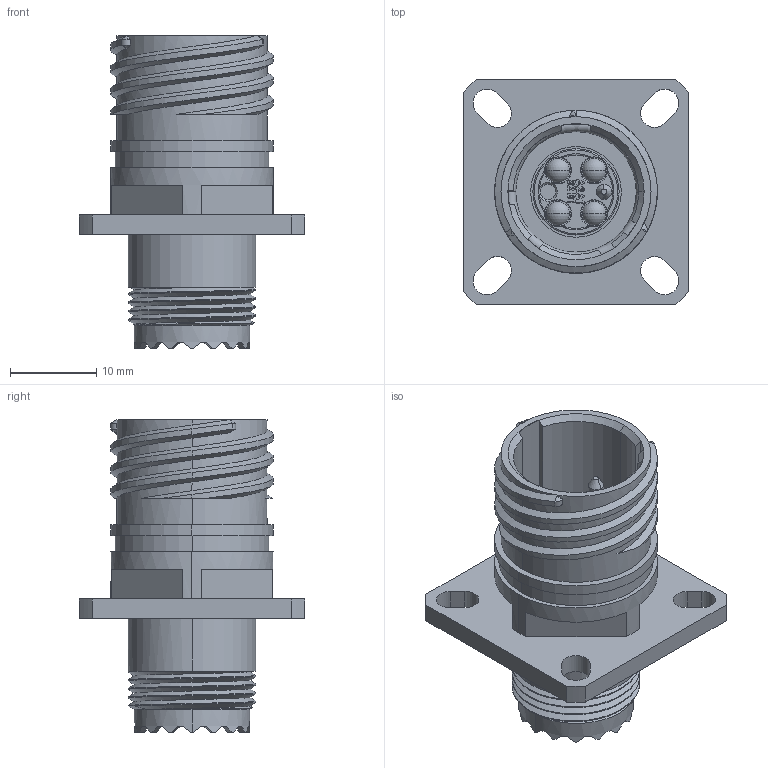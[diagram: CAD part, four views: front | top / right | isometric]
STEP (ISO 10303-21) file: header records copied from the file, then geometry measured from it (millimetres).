
FILE_DESCRIPTION (( 'STEP AP214' ), '1' );
FILE_NAME ('Q38EB-RFX-11XX-X-RA.STEP', '2025-12-12T16:53:03', ( '' ), ( '' ), 'SwSTEP 2.0', 'SolidWorks 2024', '' );
FILE_SCHEMA (( 'AUTOMOTIVE_DESIGN' ));
Length unit declared in the file: millimetre
Products named in the file (1): Q38EB-RFX-11XX-X-RA
Bounding box: 26.16 x 26.16 x 36.32 mm (x, y, z)
Volume: 5988.2 mm3; surface area: 5541.8 mm2
Topology: 2 solids, 2 shells, 437 faces, 1133 edges, 733 vertices
Faces by surface type: plane 216, cylinder 138, bspline 38, cone 26, torus 11, sphere 8
Entity records: 16346 total; most frequent: CARTESIAN_POINT 5971, ORIENTED_EDGE 2248, DIRECTION 2077, EDGE_CURVE 1124, AXIS2_PLACEMENT_3D 771, VERTEX_POINT 733, VECTOR 535, LINE 535
